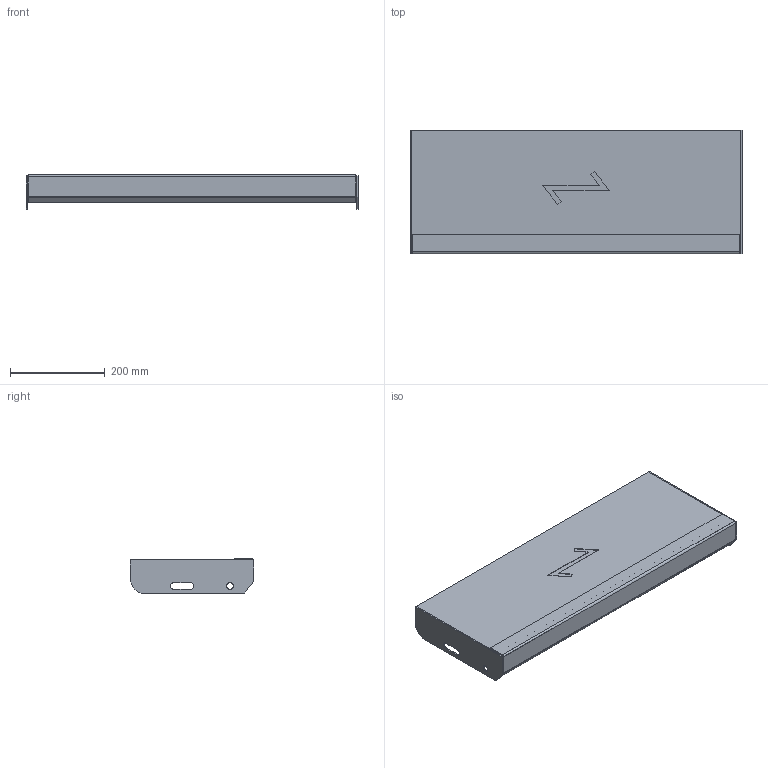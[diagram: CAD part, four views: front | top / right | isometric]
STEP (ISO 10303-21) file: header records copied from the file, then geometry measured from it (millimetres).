
FILE_DESCRIPTION (( 'STEP AP203' ), '1' );
FILE_NAME ('StegTH6-S-nya_steget-700x260.STEP', '2020-03-04T07:42:27', ( '' ), ( '' ), 'SwSTEP 2.0', 'SolidWorks 2019', '' );
FILE_SCHEMA (( 'CONFIG_CONTROL_DESIGN' ));
Length unit declared in the file: millimetre
Products named in the file (5): SW0000039471; StegTH6-S-nya_steget-700x260; SW0000038970; SW0000039243; SW0000038702
Assembly tree (5 placements, depth 3):
  StegTH6-S-nya_steget-700x260
    SW0000039471
      SW0000038970
      SW0000039243
      SW0000038702  x2
Bounding box: 700 x 260 x 72 mm (x, y, z)
Volume: 4451789.7 mm3; surface area: 596250.1 mm2
Topology: 4 solids, 4 shells, 67 faces, 158 edges, 100 vertices
Faces by surface type: plane 51, cylinder 16
Entity records: 2002 total; most frequent: DIRECTION 261, CARTESIAN_POINT 254, ORIENTED_EDGE 238, EDGE_CURVE 119, LINE 99, VECTOR 99, AXIS2_PLACEMENT_3D 81, VERTEX_POINT 74
